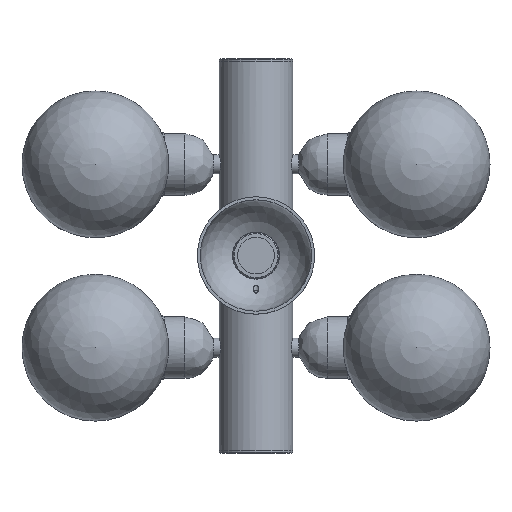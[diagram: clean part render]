
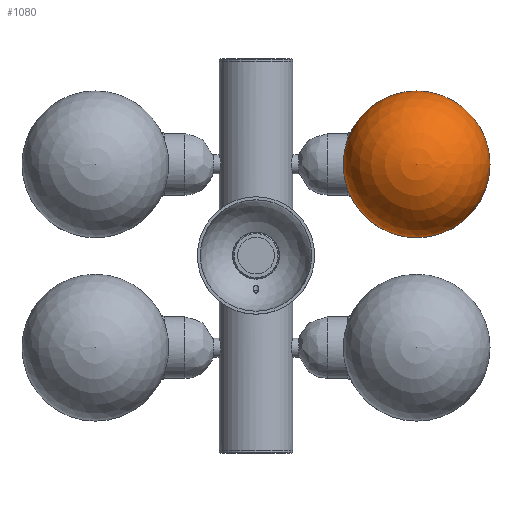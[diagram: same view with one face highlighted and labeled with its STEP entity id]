
A CAD part, top view. The second image highlights one B-rep face of the part: STEP entity #1080.
In plain terms, the highlighted spherical face has radius 50 mm.
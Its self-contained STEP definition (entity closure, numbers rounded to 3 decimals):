
#20=SPHERICAL_SURFACE('',#1193,50.);
#153=FACE_OUTER_BOUND('',#225,.T.);
#225=EDGE_LOOP('',(#804,#805,#806,#807));
#300=CIRCLE('',#1167,50.);
#302=CIRCLE('',#1169,50.);
#318=CIRCLE('',#1194,50.);
#443=VERTEX_POINT('',#1825);
#444=VERTEX_POINT('',#1826);
#468=VERTEX_POINT('',#2190);
#561=EDGE_CURVE('',#443,#444,#300,.T.);
#564=EDGE_CURVE('',#444,#443,#302,.T.);
#601=EDGE_CURVE('',#468,#444,#318,.T.);
#804=ORIENTED_EDGE('',*,*,#561,.T.);
#805=ORIENTED_EDGE('',*,*,#601,.F.);
#806=ORIENTED_EDGE('',*,*,#601,.T.);
#807=ORIENTED_EDGE('',*,*,#564,.T.);
#1080=ADVANCED_FACE('',(#153),#20,.T.);
#1167=AXIS2_PLACEMENT_3D('',#1827,#1331,#1332);
#1169=AXIS2_PLACEMENT_3D('',#1831,#1336,#1337);
#1193=AXIS2_PLACEMENT_3D('',#2189,#1387,#1388);
#1194=AXIS2_PLACEMENT_3D('',#2191,#1389,#1390);
#1331=DIRECTION('center_axis',(0.,0.,
1.));
#1332=DIRECTION('ref_axis',(0.,1.,0.));
#1336=DIRECTION('center_axis',(0.,0.,
1.));
#1337=DIRECTION('ref_axis',(0.,1.,0.));
#1387=DIRECTION('center_axis',(0.,0.,
1.));
#1388=DIRECTION('ref_axis',(-1.,0.,0.));
#1389=DIRECTION('center_axis',(0.,1.,0.));
#1390=DIRECTION('ref_axis',(1.,0.,0.));
#1825=CARTESIAN_POINT('',(109.548,112.5,100.));
#1826=CARTESIAN_POINT('',(159.548,62.5,100.));
#1827=CARTESIAN_POINT('Origin',(109.548,62.5,100.));
#1831=CARTESIAN_POINT('Origin',(109.548,62.5,100.));
#2189=CARTESIAN_POINT('Origin',(109.548,62.5,100.));
#2190=CARTESIAN_POINT('',(109.548,62.5,150.));
#2191=CARTESIAN_POINT('Origin',(109.548,62.5,100.));
